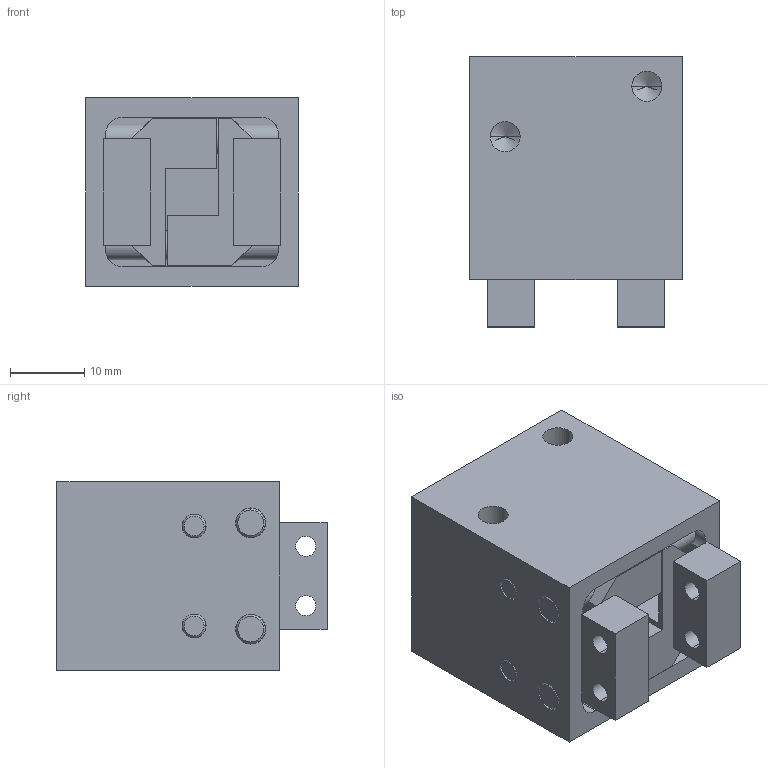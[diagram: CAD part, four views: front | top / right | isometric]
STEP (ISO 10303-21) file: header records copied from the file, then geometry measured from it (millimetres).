
FILE_DESCRIPTION (( 'STEP AP203' ), '1' );
FILE_NAME ('AGP-187 CLOSED in IN.STEP', '2014-10-31T18:37:29', ( 'setup' ), ( '' ), 'SwSTEP 2.0', 'SolidWorks 2013', '' );
FILE_SCHEMA (( 'CONFIG_CONTROL_DESIGN' ));
Length unit declared in the file: inch
Products named in the file (5): AGP-187 BODY; AGP-187 JAW; AGP-187 PIN 1; AGP-187 PIN 2; AGP-187 CLOSED in IN
Assembly tree (7 placements, depth 2):
  AGP-187 CLOSED in IN
    AGP-187 BODY
    AGP-187 JAW  x2
    AGP-187 PIN 1  x2
    AGP-187 PIN 2  x2
Bounding box: 28.57 x 36.3 x 25.4 mm (x, y, z)
Volume: 18669 mm3; surface area: 12118.7 mm2
Topology: 7 solids, 7 shells, 190 faces, 536 edges, 334 vertices
Faces by surface type: cylinder 90, plane 64, cone 36
Entity records: 5337 total; most frequent: CARTESIAN_POINT 1132, DIRECTION 782, ORIENTED_EDGE 740, EDGE_CURVE 370, AXIS2_PLACEMENT_3D 296, VERTEX_POINT 240, VECTOR 190, LINE 190
